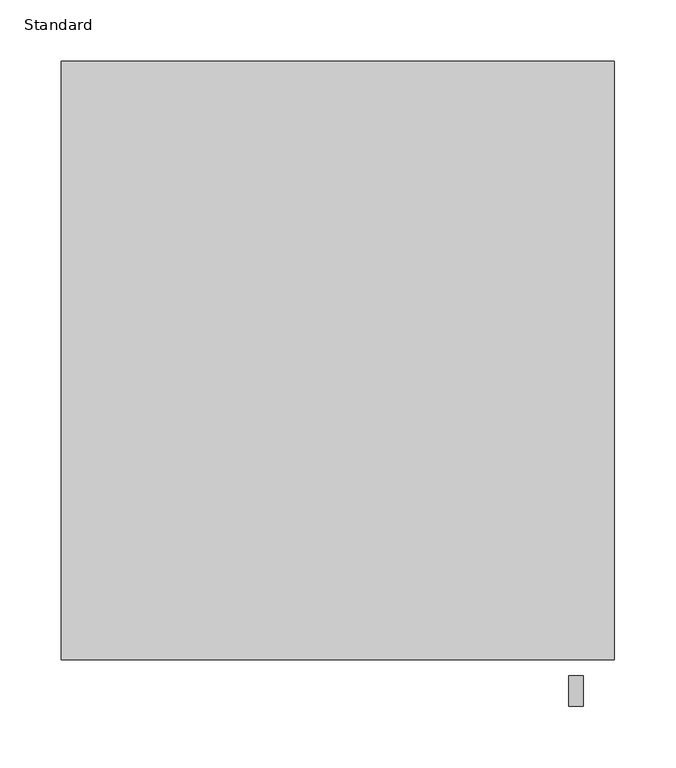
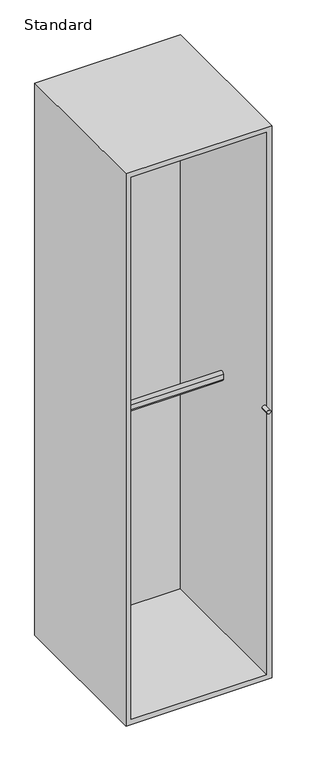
"""IFC4 building model written with IfcOpenShell, lengths in millimetres: furniture geometry, X_Locker-Duracube-EOT Bay : Standard."""

import ifcopenshell
import ifcopenshell.guid

model = None  # the IFC model being written
_history = None  # IfcOwnerHistory: only IFC2X3 demands one
_inside = {}  # id of a spatial element -> (the spatial element, [elements in it])
_under = {}  # id of a project, library or spatial element -> (it, [spatial elements below it])
_declared = {}  # id of a project -> (the project, [libraries it declares])
_typed = {}  # id of a type object -> (the type object, [elements of that type])
_made_of = {}  # id of a material, layer set ... -> (it, [elements and type objects made of it])


def new_model(schema):
    """Start an empty IFC model of exactly this schema.

    Asked for "IFC4X3", IfcOpenShell would pick the latest addendum, in which some entities
    have other attributes; the version numbers below select the first issue.
    IFC2X3 requires an IfcOwnerHistory on every rooted entity: one is made here for all.
    """
    global model, _history
    if schema == "IFC4X3":
        model = ifcopenshell.file(schema_version=(4, 3, 0, 0))
    else:
        model = ifcopenshell.file(schema=schema)
    _inside.clear()
    _under.clear()
    _declared.clear()
    _typed.clear()
    _made_of.clear()
    _history = None
    if model.schema == "IFC2X3":
        org = make("IfcOrganization", Name="unknown")
        user = make(
            "IfcPersonAndOrganization",
            ThePerson=make("IfcPerson", FamilyName="unknown"),
            TheOrganization=org,
        )
        app = make(
            "IfcApplication",
            ApplicationDeveloper=org,
            Version="unknown",
            ApplicationFullName="unknown",
            ApplicationIdentifier="unknown",
        )
        _history = make(
            "IfcOwnerHistory",
            OwningUser=user,
            OwningApplication=app,
            ChangeAction="ADDED",
            CreationDate=0,
        )
    return model


def make(cls, **values):
    """One entity of the class cls with the attributes given. An attribute that is None is left unset."""
    return model.create_entity(
        cls, **{name: value for name, value in values.items() if value is not None}
    )


def rooted(cls, **values):
    """An entity with a GlobalId (a new one), such as an element, a storey or a relation."""
    return make(cls, GlobalId=ifcopenshell.guid.new(), OwnerHistory=_history, **values)


def si_unit(unit_type, name, prefix=None):
    """IfcSIUnit, for example si_unit("LENGTHUNIT", "METRE", prefix="MILLI")."""
    return make("IfcSIUnit", UnitType=unit_type, Prefix=prefix, Name=name)


def assignment(units):
    """IfcUnitAssignment: the units of a project."""
    return None if units is None else make("IfcUnitAssignment", Units=units)


def point(xyz):
    """IfcCartesianPoint."""
    return None if xyz is None else make("IfcCartesianPoint", Coordinates=xyz)


def direction(xyz):
    """IfcDirection."""
    return None if xyz is None else make("IfcDirection", DirectionRatios=xyz)


def frame(location, z_axis=None, x_axis=None):
    """IfcAxis2Placement3D, a coordinate frame: its origin and axes. An axis left out is left unset."""
    return make(
        "IfcAxis2Placement3D",
        Location=point(location),
        Axis=direction(z_axis),
        RefDirection=direction(x_axis),
    )


def frame_2d(location, x_axis=None):
    """IfcAxis2Placement2D, a coordinate frame in the plane: its origin and x axis."""
    return make(
        "IfcAxis2Placement2D", Location=point(location), RefDirection=direction(x_axis)
    )


def origin():
    """The frame at (0, 0, 0) with its axes left unset."""
    return frame((0.0, 0.0, 0.0))


def place(relative_to, where):
    """IfcLocalPlacement: puts the frame where relative to a parent placement (None: the world)."""
    return make(
        "IfcLocalPlacement", PlacementRelTo=relative_to, RelativePlacement=where
    )


def context(
    kind, dimensions, precision=None, world=None, true_north=None, identifier=None
):
    """IfcGeometricRepresentationContext, for example the 3D "Model" context."""
    return make(
        "IfcGeometricRepresentationContext",
        ContextIdentifier=identifier,
        ContextType=kind,
        CoordinateSpaceDimension=dimensions,
        Precision=precision,
        WorldCoordinateSystem=world,
        TrueNorth=true_north,
    )


def project(units=None, contexts=None):
    """IfcProject with its units and contexts."""
    return rooted(
        "IfcProject",
        Name="project",
        RepresentationContexts=contexts,
        UnitsInContext=assignment(units),
    )


def spatial(cls, under=None, at=None, **own):
    """A site, building, storey or space (cls), placed at a placement, below another one or the project."""
    s = rooted(cls, ObjectPlacement=at, **own)
    if under is not None:
        _under.setdefault(under.id(), (under, []))[1].append(s)
    return s


def polyline(points):
    """IfcPolyline through the points."""
    return make("IfcPolyline", Points=[point(p) for p in points])


def circle_curve(where, radius):
    """IfcCircle in the frame where."""
    return make("IfcCircle", Position=where, Radius=radius)


def trimmed(basis, trim1, trim2, sense, master):
    """IfcTrimmedCurve: the piece of a basis curve between two trims."""
    return make(
        "IfcTrimmedCurve",
        BasisCurve=basis,
        Trim1=trim1,
        Trim2=trim2,
        SenseAgreement=sense,
        MasterRepresentation=master,
    )


def segment(curve, same_sense, transition):
    """IfcCompositeCurveSegment."""
    return make(
        "IfcCompositeCurveSegment",
        Transition=transition,
        SameSense=same_sense,
        ParentCurve=curve,
    )


def composite_curve(segments, self_intersect=None):
    """IfcCompositeCurve: segments joined end to end."""
    return make("IfcCompositeCurve", Segments=segments, SelfIntersect=self_intersect)


def outline(outer, holes=None, kind="AREA"):
    """IfcArbitraryClosedProfileDef: a profile drawn as a closed curve; with holes, ...WithVoids."""
    if holes is None:
        return make("IfcArbitraryClosedProfileDef", ProfileType=kind, OuterCurve=outer)
    return make(
        "IfcArbitraryProfileDefWithVoids",
        ProfileType=kind,
        OuterCurve=outer,
        InnerCurves=holes,
    )


def extrude(swept, where, along, depth):
    """IfcExtrudedAreaSolid: the profile swept, set in the frame where, extruded along a direction by depth."""
    return make(
        "IfcExtrudedAreaSolid",
        SweptArea=swept,
        Position=where,
        ExtrudedDirection=direction(along),
        Depth=depth,
    )


def faces_of(points, faces, orient=None, outer=None):
    """IfcFace entities. A face is a list of loops; a loop is a list of indices into points, from 0.

    orient and outer hold one flag for each loop. By default every Orientation is true, the
    first loop of a face is its IfcFaceOuterBound and the others are IfcFaceBound.
    """
    made = []
    for i, loops in enumerate(faces):
        bounds = []
        for j, loop in enumerate(loops):
            is_outer = j == 0 if outer is None else outer[i][j]
            bounds.append(
                make(
                    "IfcFaceOuterBound" if is_outer else "IfcFaceBound",
                    Bound=make("IfcPolyLoop", Polygon=[points[k] for k in loop]),
                    Orientation=True if orient is None else orient[i][j],
                )
            )
        made.append(make("IfcFace", Bounds=bounds))
    return made


def faceted_brep(points, faces, orient=None, outer=None, voids=None):
    """IfcFacetedBrep: a solid bounded by flat faces; with voids (closed shells), ...WithVoids."""
    shared = [point(p) for p in points]
    hull = make("IfcClosedShell", CfsFaces=faces_of(shared, faces, orient, outer))
    if voids is None:
        return make("IfcFacetedBrep", Outer=hull)
    return make(
        "IfcFacetedBrepWithVoids",
        Outer=hull,
        Voids=[
            make(cls, CfsFaces=faces_of(shared, fs, o, b)) for cls, fs, o, b in voids
        ],
    )


def shape(context_of_items, identifier, shape_type, items):
    """IfcShapeRepresentation: the items that make up one representation, for example the "Body"."""
    return make(
        "IfcShapeRepresentation",
        ContextOfItems=context_of_items,
        RepresentationIdentifier=identifier,
        RepresentationType=shape_type,
        Items=items,
    )


def source(mapping_origin, context_of_items, identifier, shape_type, items):
    """IfcRepresentationMap: a shape defined once, which mapped items show again and again."""
    return make(
        "IfcRepresentationMap",
        MappingOrigin=mapping_origin,
        MappedRepresentation=shape(context_of_items, identifier, shape_type, items),
    )


def transform(
    local_origin,
    x_axis=None,
    y_axis=None,
    z_axis=None,
    scale=None,
    scale2=None,
    scale3=None,
    uniform=True,
):
    """IfcCartesianTransformationOperator3D, or its non-uniform kind. x_axis, y_axis, z_axis: its Axis1, 2, 3."""
    if uniform:
        return make(
            "IfcCartesianTransformationOperator3D",
            Axis1=direction(x_axis),
            Axis2=direction(y_axis),
            LocalOrigin=point(local_origin),
            Scale=scale,
            Axis3=direction(z_axis),
        )
    return make(
        "IfcCartesianTransformationOperator3DnonUniform",
        Axis1=direction(x_axis),
        Axis2=direction(y_axis),
        LocalOrigin=point(local_origin),
        Scale=scale,
        Axis3=direction(z_axis),
        Scale2=scale2,
        Scale3=scale3,
    )


def mapped(mapping_source, mapping_target):
    """IfcMappedItem: shows the shape of a source again, moved by a transform."""
    return make(
        "IfcMappedItem", MappingSource=mapping_source, MappingTarget=mapping_target
    )


def made_of(thing, what):
    """Note that an element or type object is made of a material, layer set ...; save() writes the relation."""
    if what is not None:
        _made_of.setdefault(what.id(), (what, []))[1].append(thing)
    return thing


def element(
    cls,
    number,
    at=None,
    inside=None,
    cuts=None,
    type_object=None,
    material=None,
    context=None,
    identifier="Body",
    shape_type=None,
    held_by="IfcProductDefinitionShape",
    body=None,
    shapes=None,
    **own,
):
    """One element of the class cls, such as IfcWall. Its Tag is "e" and its number.

    at: its placement. inside: the storey or other place that contains it. cuts: it is an
    opening in that element (IfcRelVoidsElement). A single representation is given by context,
    identifier, shape_type and body (its items); several are given by shapes. held_by: the class
    of the entity that holds the representations. save() writes the other relations.
    """
    e = rooted(cls, Tag="e%d" % number, ObjectPlacement=at, **own)
    if body is not None:
        shapes = [shape(context, identifier, shape_type, body)]
    if shapes is not None:
        e.Representation = make(held_by, Representations=shapes)
    if inside is not None:
        _inside.setdefault(inside.id(), (inside, []))[1].append(e)
    if cuts is not None:
        rooted(
            "IfcRelVoidsElement", RelatingBuildingElement=cuts, RelatedOpeningElement=e
        )
    if type_object is not None:
        _typed.setdefault(type_object.id(), (type_object, []))[1].append(e)
    return made_of(e, material)


def aggregate(whole, parts):
    """IfcRelAggregates: a whole, such as a stair, and the parts it consists of."""
    return rooted("IfcRelAggregates", RelatingObject=whole, RelatedObjects=parts)


def save(model, path):
    """Write the relations noted so far, then the file.

    IfcRelAggregates (storeys below a building ...), IfcRelContainedInSpatialStructure (elements
    in a storey), IfcRelDefinesByType, IfcRelAssociatesMaterial and IfcRelDeclares: one each for
    every whole, place, type object, material and project.
    """
    for whole, parts in _under.values():
        aggregate(whole, parts)
    for where, things in _inside.values():
        rooted(
            "IfcRelContainedInSpatialStructure",
            RelatedElements=things,
            RelatingStructure=where,
        )
    for kind, things in _typed.values():
        rooted("IfcRelDefinesByType", RelatedObjects=things, RelatingType=kind)
    for what, things in _made_of.values():
        rooted("IfcRelAssociatesMaterial", RelatedObjects=things, RelatingMaterial=what)
    for by, libraries in _declared.values():
        rooted("IfcRelDeclares", RelatingContext=by, RelatedDefinitions=libraries)
    model.write(path)


def standard_578dc294(model_context):
    return source(origin(), model_context, "Body", "SolidModel", [
        extrude(outline(composite_curve([segment(trimmed(circle_curve(frame_2d((900.0, 238.7003264)), 6.0), [point((900.0, 232.7003264))], [point((900.0, 244.7003264))], False, "CARTESIAN"), True, "CONTINUOUS"), segment(trimmed(circle_curve(frame_2d((900.0, 238.7003264)), 6.0), [point((900.0, 244.7003264))], [point((900.0, 232.7003264))], False, "CARTESIAN"), True, "CONTINUOUS")], self_intersect=False)), frame((0.0, -525.0, 0.0), z_axis=(0.0, 1.0, 0.0), x_axis=(0.0, 0.0, 1.0)), (0.0, 0.0, 1.0), 25.0),
        faceted_brep([(269.7003264, -487.0, 1800.0), (-180.2996736, -487.0, 1800.0), (-180.2996736, -487.0, 0.0), (269.7003264, -487.0, 0.0), (253.7003264, -487.0, 1784.0), (253.7003264, -487.0, 16.0), (-164.2996736, -487.0, 16.0), (-164.2996736, -487.0, 1784.0), (-180.2996736, 0.0, 1800.0), (-180.2996736, 0.0, 0.0), (269.7003264, 0.0, 0.0), (269.7003264, 0.0, 1800.0), (253.7003264, -26.0, 1784.0), (253.7003264, -26.0, 16.0), (253.7003264, 0.0, 1784.0), (253.7003264, 0.0, 16.0), (253.7003264, -10.0, 16.0), (253.7003264, -10.0, 1784.0), (-164.2996736, -26.0, 16.0), (-164.2996736, 0.0, 16.0), (-164.2996736, -10.0, 16.0), (-164.2996736, -26.0, 1784.0), (-164.2996736, 0.0, 1784.0), (-164.2996736, -10.0, 1784.0)], [[[0, 1, 2, 3], [4, 5, 6, 7]], [[2, 1, 8, 9]], [[3, 2, 9, 10]], [[0, 3, 10, 11]], [[5, 4, 12, 13]], [[14, 15, 16, 17]], [[6, 5, 13, 18]], [[15, 19, 20, 16]], [[7, 6, 18, 21]], [[19, 22, 23, 20]], [[11, 10, 9, 8], [14, 22, 19, 15]], [[13, 12, 21, 18]], [[17, 16, 20, 23]], [[1, 0, 11, 8]], [[4, 7, 21, 12]], [[22, 14, 17, 23]]]),
        extrude(outline(composite_curve([segment(polyline([(-242.5, 855.0), (-242.5, 840.0)]), True, "CONTINUOUS"), segment(trimmed(circle_curve(frame_2d((-250.0, 840.0)), 7.5), [point((-242.5, 840.0))], [point((-257.5, 840.0))], False, "CARTESIAN"), True, "CONTINUOUS"), segment(polyline([(-257.5, 840.0), (-257.5, 855.0)]), True, "CONTINUOUS"), segment(trimmed(circle_curve(frame_2d((-250.0, 855.0)), 7.5), [point((-257.5, 855.0))], [point((-242.5, 855.0))], False, "CARTESIAN"), True, "CONTINUOUS")], self_intersect=False)), frame((-164.2996736, 0.0, 0.0), z_axis=(1.0, 0.0, 0.0), x_axis=(0.0, 1.0, 0.0)), (0.0, 0.0, 1.0), 418.0),
        extrude(outline(composite_curve([segment(polyline([(-242.5, 1701.0), (-242.5, 1686.0)]), True, "CONTINUOUS"), segment(trimmed(circle_curve(frame_2d((-250.0, 1686.0)), 7.5), [point((-242.5, 1686.0))], [point((-257.5, 1686.0))], False, "CARTESIAN"), True, "CONTINUOUS"), segment(polyline([(-257.5, 1686.0), (-257.5, 1701.0)]), True, "CONTINUOUS"), segment(trimmed(circle_curve(frame_2d((-250.0, 1701.0)), 7.5), [point((-257.5, 1701.0))], [point((-242.5, 1701.0))], False, "CARTESIAN"), True, "CONTINUOUS")], self_intersect=False)), frame((-164.2996736, 0.0, 0.0), z_axis=(1.0, 0.0, 0.0), x_axis=(0.0, 1.0, 0.0)), (0.0, 0.0, 1.0), 418.0),
    ])


if __name__ == "__main__":
    model = new_model("IFC4")
    model_context = context("Model", 3, world=origin())
    ifc_project = project(units=[si_unit("LENGTHUNIT", "METRE", prefix="MILLI")], contexts=[model_context])
    site = spatial("IfcSite", under=ifc_project)
    building = spatial("IfcBuilding", under=site)
    placement = place(None, origin())
    standard_shape = standard_578dc294(model_context)
    element("IfcFurniture", 1, ObjectType="X_Locker-Duracube-EOT Bay : Standard", at=placement, inside=building, context=model_context, shape_type="MappedRepresentation", body=[
        mapped(standard_shape, transform((0.0, 0.0, 0.0), x_axis=(1.0, 0.0, 0.0), y_axis=(0.0, 1.0, 0.0), z_axis=(0.0, 0.0, 1.0))),
    ])
    save(model, "model.ifc")
